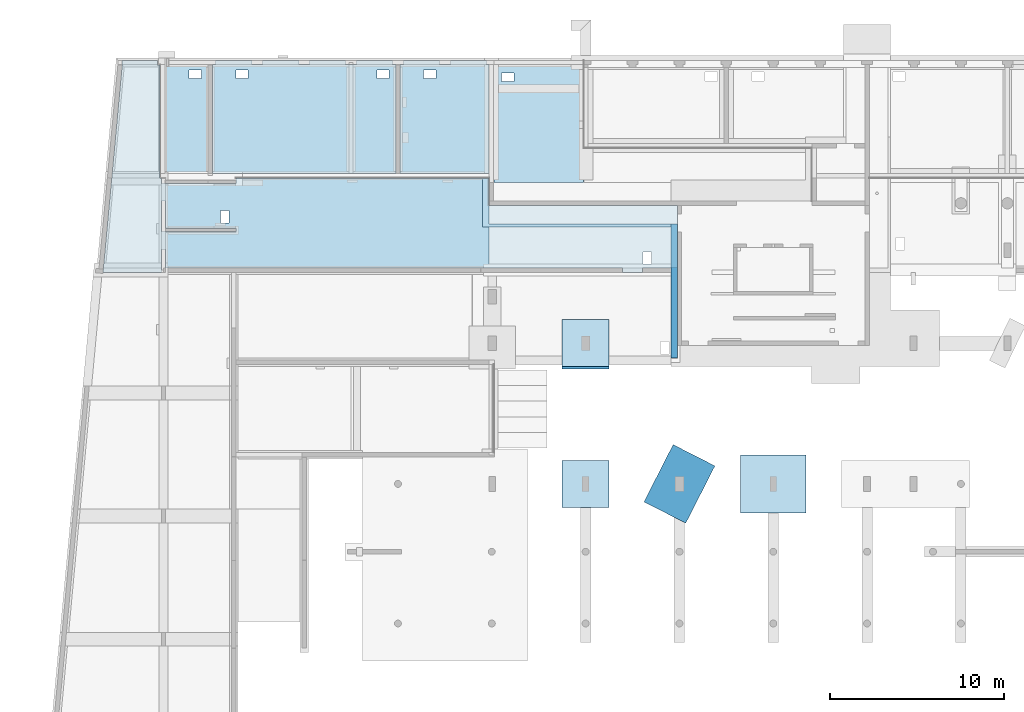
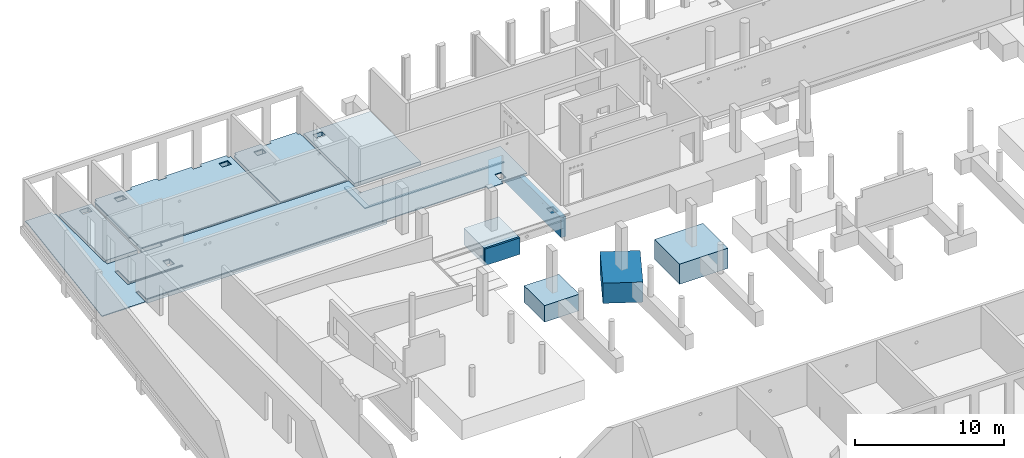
# One storey, part 24 of 60: 16 slabs, 47 openings.
"""IFC2X3 building model written with IfcOpenShell, lengths in millimetres."""

from ifc_helpers import new_model, entity, si_unit, converted_unit, derived_unit, direction, frame, frame_2d, origin, origin_2d_with_axis, place, context, subcontext, project, spatial, polyline, rectangle, circle, outline, extrude, boolean, material, layer, layer_set, layer_usage, element, save


model = new_model("IFC2X3")

# Units and contexts
model_context = context("Model", 3, precision=0.01, world=origin(), true_north=direction((6.12303176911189e-17, 1.0)))
body_context = subcontext(model_context, "Body", "Model", "MODEL_VIEW")
ifc_project = project(units=[si_unit("LENGTHUNIT", "METRE", prefix="MILLI"), si_unit("AREAUNIT", "SQUARE_METRE"), si_unit("VOLUMEUNIT", "CUBIC_METRE"), converted_unit("PLANEANGLEUNIT", "DEGREE", entity("IfcRatioMeasure", 0.0174532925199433), si_unit("PLANEANGLEUNIT", "RADIAN"), dimensions=[0, 0, 0, 0, 0, 0, 0]), si_unit("MASSUNIT", "GRAM", prefix="KILO"), derived_unit("MASSDENSITYUNIT", [(si_unit("MASSUNIT", "GRAM", prefix="KILO"), 1), (si_unit("LENGTHUNIT", "METRE"), -3)]), si_unit("TIMEUNIT", "SECOND"), si_unit("FREQUENCYUNIT", "HERTZ"), si_unit("THERMODYNAMICTEMPERATUREUNIT", "DEGREE_CELSIUS"), derived_unit("THERMALTRANSMITTANCEUNIT", [(si_unit("MASSUNIT", "GRAM", prefix="KILO"), 1), (si_unit("THERMODYNAMICTEMPERATUREUNIT", "KELVIN"), -1), (si_unit("TIMEUNIT", "SECOND"), -3)]), derived_unit("VOLUMETRICFLOWRATEUNIT", [(si_unit("LENGTHUNIT", "METRE"), 3), (si_unit("TIMEUNIT", "SECOND"), -1)]), si_unit("ELECTRICCURRENTUNIT", "AMPERE"), si_unit("ELECTRICVOLTAGEUNIT", "VOLT"), si_unit("POWERUNIT", "WATT"), si_unit("FORCEUNIT", "NEWTON", prefix="KILO"), si_unit("ILLUMINANCEUNIT", "LUX"), si_unit("LUMINOUSFLUXUNIT", "LUMEN"), si_unit("LUMINOUSINTENSITYUNIT", "CANDELA"), derived_unit("USERDEFINED", [(si_unit("MASSUNIT", "GRAM", prefix="KILO"), -1), (si_unit("LENGTHUNIT", "METRE"), -2), (si_unit("TIMEUNIT", "SECOND"), 3), (si_unit("LUMINOUSFLUXUNIT", "LUMEN"), 1)]), derived_unit("LINEARVELOCITYUNIT", [(si_unit("LENGTHUNIT", "METRE"), 1), (si_unit("TIMEUNIT", "SECOND"), -1)]), si_unit("PRESSUREUNIT", "PASCAL"), derived_unit("USERDEFINED", [(si_unit("LENGTHUNIT", "METRE"), -2), (si_unit("MASSUNIT", "GRAM", prefix="KILO"), 1), (si_unit("TIMEUNIT", "SECOND"), -2)])], contexts=[model_context])

# Site, building, storey
site_placement = place(None, origin())
site = spatial("IfcSite", under=ifc_project, at=site_placement, Name="Default", CompositionType="ELEMENT")
building_placement = place(site_placement, origin())
building = spatial("IfcBuilding", under=site, at=building_placement, Name="niet gebruiken", CompositionType="ELEMENT")
storey_placement = place(building_placement, origin())
storey = spatial("IfcBuildingStorey", under=building, at=storey_placement, Name="00 begane grond", CompositionType="ELEMENT", Elevation=0.0)

# Slabs
ifc_material_1 = material(Name="NLRS_f2_beton ihwg")
slab_1_placement = place(storey_placement, origin())
element("IfcSlab", 1, at=slab_1_placement, inside=storey, material=ifc_material_1, Name="NLRS_16.13_SFO_LB_fundatiepoer_gen:2700x2700x1350", ObjectType="NLRS_16.13_SFO_LB_fundatiepoer_gen:2700x2700x1350", PredefinedType="BASESLAB", context=body_context, shape_type="SweptSolid", body=[
    extrude(rectangle(XDim=2700.0, YDim=2700.0, at=frame_2d((2.1600499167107e-12, -2.1600499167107e-12), x_axis=(1.0, 0.0))), frame((32400.0, 28881.0, -1550.0), z_axis=(0.0, 0.0, 1.0), x_axis=(0.0, -1.0, 0.0)), (0.0, 0.0, 1.0), 1350.0),
])
slab_2_placement = place(storey_placement, origin())
element("IfcSlab", 2, at=slab_2_placement, inside=storey, material=ifc_material_1, Name="NLRS_16.13_SFO_LB_fundatiepoer_gen:3350x3750x1650", ObjectType="NLRS_16.13_SFO_LB_fundatiepoer_gen:3350x3750x1650", PredefinedType="BASESLAB", context=body_context, shape_type="SweptSolid", body=[
    extrude(rectangle(XDim=3350.0, YDim=3750.0, at=frame_2d((0.0, 4.32009983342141e-12), x_axis=(1.0, 0.0))), frame((43200.0, 28881.0, -1850.0), z_axis=(0.0, 0.0, 1.0), x_axis=(0.0, -1.0, 0.0)), (0.0, 0.0, 1.0), 1650.0),
])
slab_3_placement = place(storey_placement, origin())
element("IfcSlab", 3, at=slab_3_placement, inside=storey, material=ifc_material_1, Name="NLRS_16.13_SFO_LB_fundatiepoer_gen:2700x3700x1650", ObjectType="NLRS_16.13_SFO_LB_fundatiepoer_gen:2700x3700x1650", PredefinedType="BASESLAB", context=body_context, shape_type="SweptSolid", body=[
    extrude(rectangle(XDim=3700.0, YDim=2700.0, at=frame_2d((3.06954461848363e-12, -1.02318153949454e-12), x_axis=(1.0, 0.0))), frame((37800.0, 28881.0, -1850.0), z_axis=(0.0, 0.0, 1.0), x_axis=(0.453990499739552, 0.891006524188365, 0.0)), (0.0, 0.0, 1.0), 1650.0),
])
slab_4_placement = place(storey_placement, origin())
element("IfcSlab", 4, at=slab_4_placement, inside=storey, material=ifc_material_1, Name="NLRS_16.13_SFO_LB_fundatiepoer_gen:2700x2700x1350", ObjectType="NLRS_16.13_SFO_LB_fundatiepoer_gen:2700x2700x1350", PredefinedType="BASESLAB", context=body_context, shape_type="SweptSolid", body=[
    extrude(rectangle(XDim=2700.0, YDim=2700.0, at=origin_2d_with_axis()), frame((32400.0, 36981.0, -1752.0)), (0.0, 0.0, 1.0), 1350.0),
])

# Slab, openings
ifc_layer_1 = layer(ifc_material_1, 70.0)
ifc_layer_set_1 = layer_set([ifc_layer_1], Name="Floor:NLRS_23.21_FL_druklaag d=70_gen")
ifc_layer_usage_1 = layer_usage(ifc_layer_set_1, "AXIS3", "POSITIVE", 0.0)
slab_5_placement = place(storey_placement, frame((8180.0, 45156.0, -160.0)))
slab_5 = element("IfcSlab", 5, at=slab_5_placement, inside=storey, material=ifc_layer_usage_1, Name="Floor:NLRS_23.21_FL_druklaag d=70_gen", ObjectType="Floor:NLRS_23.21_FL_druklaag d=70_gen", PredefinedType="FLOOR", context=body_context, shape_type="SweptSolid", body=[
    extrude(outline(polyline([(36737.5000000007, 4050.0), (36737.5000000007, 3800.0), (36577.4999999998, 3800.0), (36577.4999999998, -2460.0), (41702.4999999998, -2460.0), (41702.4999999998, 3800.0), (41517.5000000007, 3800.0), (41517.5000000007, 4050.0), (39437.5000000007, 4050.0), (39437.5000000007, 3800.0), (38817.5000000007, 3800.0), (38817.5000000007, 4050.0), (36737.5000000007, 4050.0)])), frame((55247.4999999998, 4050.0, 70.0), z_axis=(0.0, 0.0, -1.0), x_axis=(-1.0, 0.0, 0.0)), (0.0, 0.0, 1.0), 70.0),
])
placement_1 = place(slab_5_placement, origin())
element("IfcOpeningElement", 6, at=placement_1, cuts=slab_5, ObjectType="Opening", context=body_context, shape_type="SweptSolid", body=[
    extrude(rectangle(XDim=700.000000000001, YDim=499.999999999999, at=origin_2d_with_axis()), frame((1750.0, 7302.50000000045, -380.0), z_axis=(0.0, 0.0, 1.0), x_axis=(-1.0, 0.0, 0.0)), (0.0, 0.0, 1.0), 450.0),
])
placement_2 = place(slab_5_placement, origin())
element("IfcOpeningElement", 7, at=placement_2, cuts=slab_5, ObjectType="Opening", context=body_context, shape_type="SweptSolid", body=[
    extrude(rectangle(XDim=700.000000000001, YDim=499.999999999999, at=origin_2d_with_axis()), frame((4450.0, 7302.50000000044, -380.0), z_axis=(0.0, 0.0, 1.0), x_axis=(-1.0, 0.0, 0.0)), (0.0, 0.0, 1.0), 450.0),
])
placement_3 = place(slab_5_placement, origin())
element("IfcOpeningElement", 8, at=placement_3, cuts=slab_5, ObjectType="Opening", context=body_context, shape_type="SweptSolid", body=[
    extrude(rectangle(XDim=700.000000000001, YDim=499.999999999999, at=origin_2d_with_axis()), frame((12550.0, 7302.50000000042, -380.0), z_axis=(0.0, 0.0, 1.0), x_axis=(-1.0, 0.0, 0.0)), (0.0, 0.0, 1.0), 450.0),
])
placement_4 = place(slab_5_placement, origin())
element("IfcOpeningElement", 9, at=placement_4, cuts=slab_5, ObjectType="Opening", context=body_context, shape_type="SweptSolid", body=[
    extrude(rectangle(XDim=700.000000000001, YDim=499.999999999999, at=origin_2d_with_axis()), frame((15250.0, 7302.50000000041, -380.0), z_axis=(0.0, 0.0, 1.0), x_axis=(-1.0, 0.0, 0.0)), (0.0, 0.0, 1.0), 450.0),
])
placement_5 = place(slab_5_placement, origin())
element("IfcOpeningElement", 10, at=placement_5, cuts=slab_5, ObjectType="Opening", context=body_context, shape_type="SweptSolid", body=[
    extrude(rectangle(XDim=700.000000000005, YDim=499.999999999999, at=origin_2d_with_axis()), frame((42250.0, 7175.0, -380.0), z_axis=(0.0, 0.0, 1.0), x_axis=(-1.0, 0.0, 0.0)), (0.0, 0.0, 1.0), 450.0),
])
placement_6 = place(slab_5_placement, origin())
element("IfcOpeningElement", 11, at=placement_6, cuts=slab_5, ObjectType="Opening", context=body_context, shape_type="SweptSolid", body=[
    extrude(rectangle(XDim=700.000000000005, YDim=499.999999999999, at=origin_2d_with_axis()), frame((50350.0, 7102.50000000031, -380.0), z_axis=(0.0, 0.0, 1.0), x_axis=(-1.0, 0.0, 0.0)), (0.0, 0.0, 1.0), 450.0),
])
placement_7 = place(slab_5_placement, origin())
element("IfcOpeningElement", 12, at=placement_7, cuts=slab_5, ObjectType="Opening", context=body_context, shape_type="SweptSolid", body=[
    extrude(rectangle(XDim=699.999999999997, YDim=499.999999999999, at=origin_2d_with_axis()), frame((53050.0, 7102.50000000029, -380.0), z_axis=(0.0, 0.0, 1.0), x_axis=(-1.0, 0.0, 0.0)), (0.0, 0.0, 1.0), 450.0),
])
placement_8 = place(slab_5_placement, origin())
element("IfcOpeningElement", 13, at=placement_8, cuts=slab_5, ObjectType="Opening", context=body_context, shape_type="SweptSolid", body=[
    extrude(rectangle(XDim=699.999999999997, YDim=499.999999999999, at=origin_2d_with_axis()), frame((60190.0, 7302.50000000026, -380.0), z_axis=(0.0, 0.0, 1.0), x_axis=(-1.0, 0.0, 0.0)), (0.0, 0.0, 1.0), 450.0),
])
placement_9 = place(slab_5_placement, origin())
element("IfcOpeningElement", 14, at=placement_9, cuts=slab_5, ObjectType="Opening", context=body_context, shape_type="SweptSolid", body=[
    extrude(rectangle(XDim=700.000000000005, YDim=499.999999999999, at=origin_2d_with_axis()), frame((63850.0, 7302.50000000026, -380.0), z_axis=(0.0, 0.0, 1.0), x_axis=(-1.0, 0.0, 0.0)), (0.0, 0.0, 1.0), 450.0),
])
placement_10 = place(slab_5_placement, origin())
element("IfcOpeningElement", 15, at=placement_10, cuts=slab_5, ObjectType="Opening", context=body_context, shape_type="SweptSolid", body=[
    extrude(rectangle(XDim=699.999999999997, YDim=499.999999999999, at=origin_2d_with_axis()), frame((90850.0, 7155.0, -380.0), z_axis=(0.0, 0.0, 1.0), x_axis=(-1.0, 0.0, 0.0)), (0.0, 0.0, 1.0), 450.0),
])
placement_11 = place(slab_5_placement, origin())
element("IfcOpeningElement", 16, at=placement_11, cuts=slab_5, ObjectType="Opening", context=body_context, shape_type="SweptSolid", body=[
    extrude(rectangle(XDim=699.999999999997, YDim=499.999999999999, at=origin_2d_with_axis()), frame((97990.0, 7155.0, -380.0), z_axis=(0.0, 0.0, 1.0), x_axis=(-1.0, 0.0, 0.0)), (0.0, 0.0, 1.0), 450.0),
])
placement_12 = place(slab_5_placement, origin())
element("IfcOpeningElement", 17, at=placement_12, cuts=slab_5, ObjectType="Opening", context=body_context, shape_type="SweptSolid", body=[
    extrude(rectangle(XDim=699.999999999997, YDim=499.999999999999, at=origin_2d_with_axis()), frame((101650.0, 7302.50000000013, -380.0), z_axis=(0.0, 0.0, 1.0), x_axis=(-1.0, 0.0, 0.0)), (0.0, 0.0, 1.0), 450.0),
])
placement_13 = place(slab_5_placement, origin())
element("IfcOpeningElement", 18, at=placement_13, cuts=slab_5, ObjectType="Opening", context=body_context, shape_type="SweptSolid", body=[
    extrude(rectangle(XDim=699.999999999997, YDim=499.999999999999, at=origin_2d_with_axis()), frame((109750.0, 7302.50000000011, -380.0), z_axis=(0.0, 0.0, 1.0), x_axis=(-1.0, 0.0, 0.0)), (0.0, 0.0, 1.0), 450.0),
])
placement_14 = place(slab_5_placement, origin())
element("IfcOpeningElement", 19, at=placement_14, cuts=slab_5, ObjectType="Opening", context=body_context, shape_type="SweptSolid", body=[
    extrude(rectangle(XDim=699.999999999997, YDim=499.999999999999, at=origin_2d_with_axis()), frame((112450.0, 7302.5000000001, -380.0), z_axis=(0.0, 0.0, 1.0), x_axis=(-1.0, 0.0, 0.0)), (0.0, 0.0, 1.0), 450.0),
])
placement_15 = place(slab_5_placement, origin())
element("IfcOpeningElement", 20, at=placement_15, cuts=slab_5, ObjectType="Opening", context=body_context, shape_type="SweptSolid", body=[
    extrude(rectangle(XDim=700.000000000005, YDim=499.999999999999, at=origin_2d_with_axis()), frame((31450.0, 7175.0, -380.0), z_axis=(0.0, 0.0, 1.0), x_axis=(-1.0, 0.0, 0.0)), (0.0, 0.0, 1.0), 450.0),
])
placement_16 = place(slab_5_placement, origin())
element("IfcOpeningElement", 21, at=placement_16, cuts=slab_5, ObjectType="Opening", context=body_context, shape_type="SweptSolid", body=[
    extrude(rectangle(XDim=700.000000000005, YDim=499.999999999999, at=origin_2d_with_axis()), frame((34150.0, 7175.0, -380.0), z_axis=(0.0, 0.0, 1.0), x_axis=(-1.0, 0.0, 0.0)), (0.0, 0.0, 1.0), 450.0),
])
placement_17 = place(slab_5_placement, origin())
element("IfcOpeningElement", 22, at=placement_17, cuts=slab_5, ObjectType="Opening", context=body_context, shape_type="SweptSolid", body=[
    extrude(rectangle(XDim=699.999999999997, YDim=499.999999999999, at=origin_2d_with_axis()), frame((82750.0, 7175.0, -380.0), z_axis=(0.0, 0.0, 1.0), x_axis=(-1.0, 0.0, 0.0)), (0.0, 0.0, 1.0), 450.0),
])
placement_18 = place(slab_5_placement, origin())
element("IfcOpeningElement", 23, at=placement_18, cuts=slab_5, ObjectType="Opening", context=body_context, shape_type="SweptSolid", body=[
    extrude(rectangle(XDim=699.999999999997, YDim=499.999999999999, at=origin_2d_with_axis()), frame((80050.0, 7175.0, -380.0), z_axis=(0.0, 0.0, 1.0), x_axis=(-1.0, 0.0, 0.0)), (0.0, 0.0, 1.0), 450.0),
])
placement_19 = place(slab_5_placement, origin())
element("IfcOpeningElement", 24, at=placement_19, cuts=slab_5, ObjectType="Opening", context=body_context, shape_type="SweptSolid", body=[
    extrude(rectangle(XDim=700.000000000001, YDim=499.999999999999, at=origin_2d_with_axis()), frame((19739.8230847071, 7129.78918001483, -380.0), z_axis=(0.0, 0.0, 1.0), x_axis=(-1.0, 0.0, 0.0)), (0.0, 0.0, 1.0), 450.0),
])

slab_6_placement = place(storey_placement, frame((8180.0, 45156.0, -160.0)))
slab_6 = element("IfcSlab", 25, at=slab_6_placement, inside=storey, material=ifc_layer_usage_1, Name="Floor:NLRS_23.21_FL_druklaag d=70_gen:8", ObjectType="Floor:NLRS_23.21_FL_druklaag d=70_gen", PredefinedType="FLOOR", context=body_context, shape_type="SweptSolid", body=[
    extrude(outline(polyline([(52502.4999999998, -2460.0), (52502.4999999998, 3800.0), (52317.5000000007, 3800.0), (52317.5000000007, 4050.0), (50237.5000000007, 4050.0), (50237.5000000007, 3800.0), (49617.5000000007, 3800.0), (49617.5000000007, 4050.0), (47537.5000000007, 4050.0), (47537.5000000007, 3800.0), (46917.5000000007, 3800.0), (46917.5000000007, 4050.0), (44837.5000000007, 4050.0), (44837.5000000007, 3800.0), (44217.5000000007, 3800.0), (44217.5000000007, 4050.0), (42137.5000000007, 4050.0), (42137.5000000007, 3800.0), (41952.4999999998, 3800.0), (41952.4999999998, -2460.0), (52502.4999999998, -2460.0)])), frame((55247.4999999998, 4050.0, 70.0), z_axis=(0.0, 0.0, -1.0), x_axis=(-1.0, 0.0, 0.0)), (0.0, 0.0, 1.0), 70.0),
])
element("IfcOpeningElement", 26, at=placement_1, cuts=slab_6, ObjectType="Opening", context=body_context, shape_type="SweptSolid", body=[
    extrude(rectangle(XDim=700.000000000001, YDim=499.999999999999, at=origin_2d_with_axis()), frame((1750.0, 7302.50000000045, -380.0), z_axis=(0.0, 0.0, 1.0), x_axis=(-1.0, 0.0, 0.0)), (0.0, 0.0, 1.0), 450.0),
])
element("IfcOpeningElement", 27, at=placement_2, cuts=slab_6, ObjectType="Opening", context=body_context, shape_type="SweptSolid", body=[
    extrude(rectangle(XDim=700.000000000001, YDim=499.999999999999, at=origin_2d_with_axis()), frame((4450.0, 7302.50000000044, -380.0), z_axis=(0.0, 0.0, 1.0), x_axis=(-1.0, 0.0, 0.0)), (0.0, 0.0, 1.0), 450.0),
])
element("IfcOpeningElement", 28, at=placement_3, cuts=slab_6, ObjectType="Opening", context=body_context, shape_type="SweptSolid", body=[
    extrude(rectangle(XDim=700.000000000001, YDim=499.999999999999, at=origin_2d_with_axis()), frame((12550.0, 7302.50000000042, -380.0), z_axis=(0.0, 0.0, 1.0), x_axis=(-1.0, 0.0, 0.0)), (0.0, 0.0, 1.0), 450.0),
])
element("IfcOpeningElement", 29, at=placement_4, cuts=slab_6, ObjectType="Opening", context=body_context, shape_type="SweptSolid", body=[
    extrude(rectangle(XDim=700.000000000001, YDim=499.999999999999, at=origin_2d_with_axis()), frame((15250.0, 7302.50000000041, -380.0), z_axis=(0.0, 0.0, 1.0), x_axis=(-1.0, 0.0, 0.0)), (0.0, 0.0, 1.0), 450.0),
])
element("IfcOpeningElement", 30, at=placement_5, cuts=slab_6, ObjectType="Opening", context=body_context, shape_type="SweptSolid", body=[
    extrude(rectangle(XDim=700.000000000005, YDim=499.999999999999, at=origin_2d_with_axis()), frame((42250.0, 7175.0, -380.0), z_axis=(0.0, 0.0, 1.0), x_axis=(-1.0, 0.0, 0.0)), (0.0, 0.0, 1.0), 450.0),
])
element("IfcOpeningElement", 31, at=placement_6, cuts=slab_6, ObjectType="Opening", context=body_context, shape_type="SweptSolid", body=[
    extrude(rectangle(XDim=700.000000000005, YDim=499.999999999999, at=origin_2d_with_axis()), frame((50350.0, 7102.50000000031, -380.0), z_axis=(0.0, 0.0, 1.0), x_axis=(-1.0, 0.0, 0.0)), (0.0, 0.0, 1.0), 450.0),
])
element("IfcOpeningElement", 32, at=placement_7, cuts=slab_6, ObjectType="Opening", context=body_context, shape_type="SweptSolid", body=[
    extrude(rectangle(XDim=699.999999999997, YDim=499.999999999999, at=origin_2d_with_axis()), frame((53050.0, 7102.50000000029, -380.0), z_axis=(0.0, 0.0, 1.0), x_axis=(-1.0, 0.0, 0.0)), (0.0, 0.0, 1.0), 450.0),
])
element("IfcOpeningElement", 33, at=placement_8, cuts=slab_6, ObjectType="Opening", context=body_context, shape_type="SweptSolid", body=[
    extrude(rectangle(XDim=699.999999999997, YDim=499.999999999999, at=origin_2d_with_axis()), frame((60190.0, 7302.50000000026, -380.0), z_axis=(0.0, 0.0, 1.0), x_axis=(-1.0, 0.0, 0.0)), (0.0, 0.0, 1.0), 450.0),
])
element("IfcOpeningElement", 34, at=placement_9, cuts=slab_6, ObjectType="Opening", context=body_context, shape_type="SweptSolid", body=[
    extrude(rectangle(XDim=700.000000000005, YDim=499.999999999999, at=origin_2d_with_axis()), frame((63850.0, 7302.50000000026, -380.0), z_axis=(0.0, 0.0, 1.0), x_axis=(-1.0, 0.0, 0.0)), (0.0, 0.0, 1.0), 450.0),
])
element("IfcOpeningElement", 35, at=placement_10, cuts=slab_6, ObjectType="Opening", context=body_context, shape_type="SweptSolid", body=[
    extrude(rectangle(XDim=699.999999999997, YDim=499.999999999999, at=origin_2d_with_axis()), frame((90850.0, 7155.0, -380.0), z_axis=(0.0, 0.0, 1.0), x_axis=(-1.0, 0.0, 0.0)), (0.0, 0.0, 1.0), 450.0),
])
element("IfcOpeningElement", 36, at=placement_11, cuts=slab_6, ObjectType="Opening", context=body_context, shape_type="SweptSolid", body=[
    extrude(rectangle(XDim=699.999999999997, YDim=499.999999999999, at=origin_2d_with_axis()), frame((97990.0, 7155.0, -380.0), z_axis=(0.0, 0.0, 1.0), x_axis=(-1.0, 0.0, 0.0)), (0.0, 0.0, 1.0), 450.0),
])
element("IfcOpeningElement", 37, at=placement_12, cuts=slab_6, ObjectType="Opening", context=body_context, shape_type="SweptSolid", body=[
    extrude(rectangle(XDim=699.999999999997, YDim=499.999999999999, at=origin_2d_with_axis()), frame((101650.0, 7302.50000000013, -380.0), z_axis=(0.0, 0.0, 1.0), x_axis=(-1.0, 0.0, 0.0)), (0.0, 0.0, 1.0), 450.0),
])
element("IfcOpeningElement", 38, at=placement_13, cuts=slab_6, ObjectType="Opening", context=body_context, shape_type="SweptSolid", body=[
    extrude(rectangle(XDim=699.999999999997, YDim=499.999999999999, at=origin_2d_with_axis()), frame((109750.0, 7302.50000000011, -380.0), z_axis=(0.0, 0.0, 1.0), x_axis=(-1.0, 0.0, 0.0)), (0.0, 0.0, 1.0), 450.0),
])
element("IfcOpeningElement", 39, at=placement_14, cuts=slab_6, ObjectType="Opening", context=body_context, shape_type="SweptSolid", body=[
    extrude(rectangle(XDim=699.999999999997, YDim=499.999999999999, at=origin_2d_with_axis()), frame((112450.0, 7302.5000000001, -380.0), z_axis=(0.0, 0.0, 1.0), x_axis=(-1.0, 0.0, 0.0)), (0.0, 0.0, 1.0), 450.0),
])
element("IfcOpeningElement", 40, at=placement_15, cuts=slab_6, ObjectType="Opening", context=body_context, shape_type="SweptSolid", body=[
    extrude(rectangle(XDim=700.000000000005, YDim=499.999999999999, at=origin_2d_with_axis()), frame((31450.0, 7175.0, -380.0), z_axis=(0.0, 0.0, 1.0), x_axis=(-1.0, 0.0, 0.0)), (0.0, 0.0, 1.0), 450.0),
])
element("IfcOpeningElement", 41, at=placement_16, cuts=slab_6, ObjectType="Opening", context=body_context, shape_type="SweptSolid", body=[
    extrude(rectangle(XDim=700.000000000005, YDim=499.999999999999, at=origin_2d_with_axis()), frame((34150.0, 7175.0, -380.0), z_axis=(0.0, 0.0, 1.0), x_axis=(-1.0, 0.0, 0.0)), (0.0, 0.0, 1.0), 450.0),
])
element("IfcOpeningElement", 42, at=placement_17, cuts=slab_6, ObjectType="Opening", context=body_context, shape_type="SweptSolid", body=[
    extrude(rectangle(XDim=699.999999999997, YDim=499.999999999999, at=origin_2d_with_axis()), frame((82750.0, 7175.0, -380.0), z_axis=(0.0, 0.0, 1.0), x_axis=(-1.0, 0.0, 0.0)), (0.0, 0.0, 1.0), 450.0),
])
element("IfcOpeningElement", 43, at=placement_18, cuts=slab_6, ObjectType="Opening", context=body_context, shape_type="SweptSolid", body=[
    extrude(rectangle(XDim=699.999999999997, YDim=499.999999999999, at=origin_2d_with_axis()), frame((80050.0, 7175.0, -380.0), z_axis=(0.0, 0.0, 1.0), x_axis=(-1.0, 0.0, 0.0)), (0.0, 0.0, 1.0), 450.0),
])
element("IfcOpeningElement", 44, at=placement_19, cuts=slab_6, ObjectType="Opening", context=body_context, shape_type="SweptSolid", body=[
    extrude(rectangle(XDim=700.000000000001, YDim=499.999999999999, at=origin_2d_with_axis()), frame((19739.8230847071, 7129.78918001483, -380.0), z_axis=(0.0, 0.0, 1.0), x_axis=(-1.0, 0.0, 0.0)), (0.0, 0.0, 1.0), 450.0),
])

# Slab, opening
ifc_material_2 = material(Name="NLRS_f2_beton prefab")
ifc_layer_2 = layer(ifc_material_2, 200.0)
ifc_material_3 = material(Name="NLRS_n7_isolatie EPS")
ifc_layer_3 = layer(ifc_material_3, 132.0)
ifc_layer_set_2 = layer_set([ifc_layer_2, ifc_layer_3], Name="Floor:NLRS_23.21_FL_geisoleerde kanaalplaat d=200 rc 3.5 iso132_gen")
ifc_layer_usage_2 = layer_usage(ifc_layer_set_2, "AXIS3", "POSITIVE", 0.0)
slab_7_placement = place(storey_placement, frame((10945.0, 46766.0, -492.0)))
slab_7 = element("IfcSlab", 45, at=slab_7_placement, inside=storey, material=ifc_layer_usage_2, Name="Floor:NLRS_23.21_FL_geisoleerde kanaalplaat d=200 rc 3.5 iso132_gen", ObjectType="Floor:NLRS_23.21_FL_geisoleerde kanaalplaat d=200 rc 3.5 iso132_gen", PredefinedType="FLOOR", context=body_context, shape_type="SweptSolid", body=[
    extrude(rectangle(XDim=6220.00000000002, YDim=7809.99999999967, at=frame_2d((0.0, 0.0), x_axis=(0.0, -1.0))), frame((3905.0, 3110.0, 332.0), z_axis=(0.0, 0.0, -1.0), x_axis=(-1.0, 0.0, 0.0)), (0.0, 0.0, 1.0), 332.0),
])
opening_39_placement = place(slab_7_placement, origin())
element("IfcOpeningElement", 46, at=opening_39_placement, cuts=slab_7, ObjectType="Opening", context=body_context, shape_type="SweptSolid", body=[
    extrude(rectangle(XDim=700.000000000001, YDim=499.999999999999, at=origin_2d_with_axis()), frame((1685.0, 5692.5000000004, -48.0), z_axis=(0.0, 0.0, 1.0), x_axis=(-1.0, 0.0, 0.0)), (0.0, 0.0, 1.0), 450.0),
])

ifc_layer_usage_3 = layer_usage(ifc_layer_set_2, "AXIS3", "POSITIVE", 0.0)
slab_8_placement = place(storey_placement, frame((19045.0, 46766.0, -492.0)))
slab_8 = element("IfcSlab", 47, at=slab_8_placement, inside=storey, material=ifc_layer_usage_3, Name="Floor:NLRS_23.21_FL_geisoleerde kanaalplaat d=200 rc 3.5 iso132_gen", ObjectType="Floor:NLRS_23.21_FL_geisoleerde kanaalplaat d=200 rc 3.5 iso132_gen", PredefinedType="FLOOR", context=body_context, shape_type="SweptSolid", body=[
    extrude(rectangle(XDim=6220.00000000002, YDim=2410.00000000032, at=frame_2d((0.0, 0.0), x_axis=(0.0, -1.0))), frame((1205.0, 3110.0, 332.0), z_axis=(0.0, 0.0, -1.0), x_axis=(-1.0, 0.0, 0.0)), (0.0, 0.0, 1.0), 332.0),
])
opening_40_placement = place(slab_8_placement, origin())
element("IfcOpeningElement", 48, at=opening_40_placement, cuts=slab_8, ObjectType="Opening", context=body_context, shape_type="SweptSolid", body=[
    extrude(rectangle(XDim=700.000000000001, YDim=499.999999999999, at=origin_2d_with_axis()), frame((1685.0, 5692.50000000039, -48.0), z_axis=(0.0, 0.0, 1.0), x_axis=(-1.0, 0.0, 0.0)), (0.0, 0.0, 1.0), 450.0),
])

ifc_layer_usage_4 = layer_usage(ifc_layer_set_2, "AXIS3", "POSITIVE", 0.0)
slab_9_placement = place(storey_placement, frame((21745.0, 46766.0, -492.0)))
slab_9 = element("IfcSlab", 49, at=slab_9_placement, inside=storey, material=ifc_layer_usage_4, Name="Floor:NLRS_23.21_FL_geisoleerde kanaalplaat d=200 rc 3.5 iso132_gen", ObjectType="Floor:NLRS_23.21_FL_geisoleerde kanaalplaat d=200 rc 3.5 iso132_gen", PredefinedType="FLOOR", context=body_context, shape_type="SweptSolid", body=[
    extrude(rectangle(XDim=6220.00000000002, YDim=5085.00000000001, at=frame_2d((0.0, 0.0), x_axis=(0.0, -1.0))), frame((2542.50000000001, 3110.0, 332.0), z_axis=(0.0, 0.0, -1.0), x_axis=(-1.0, 0.0, 0.0)), (0.0, 0.0, 1.0), 332.0),
])
opening_41_placement = place(slab_9_placement, origin())
element("IfcOpeningElement", 50, at=opening_41_placement, cuts=slab_9, ObjectType="Opening", context=body_context, shape_type="SweptSolid", body=[
    extrude(rectangle(XDim=700.000000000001, YDim=499.999999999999, at=origin_2d_with_axis()), frame((1685.0, 5692.5000000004, -48.0), z_axis=(0.0, 0.0, 1.0), x_axis=(-1.0, 0.0, 0.0)), (0.0, 0.0, 1.0), 450.0),
])

ifc_layer_usage_5 = layer_usage(ifc_layer_set_2, "AXIS3", "POSITIVE", 0.0)
slab_10_placement = place(storey_placement, frame((8200.0, 46766.0, -492.0)))
slab_10 = element("IfcSlab", 51, at=slab_10_placement, inside=storey, material=ifc_layer_usage_5, Name="Floor:NLRS_23.21_FL_geisoleerde kanaalplaat d=200 rc 3.5 iso132_gen", ObjectType="Floor:NLRS_23.21_FL_geisoleerde kanaalplaat d=200 rc 3.5 iso132_gen", PredefinedType="FLOOR", context=body_context, shape_type="SweptSolid", body=[
    extrude(rectangle(XDim=6220.00000000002, YDim=2454.99999999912, at=frame_2d((0.0, 0.0), x_axis=(0.0, -1.0))), frame((1227.49999999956, 3110.0, 332.0), z_axis=(0.0, 0.0, -1.0), x_axis=(-1.0, 0.0, 0.0)), (0.0, 0.0, 1.0), 332.0),
])
opening_42_placement = place(slab_10_placement, origin())
element("IfcOpeningElement", 52, at=opening_42_placement, cuts=slab_10, ObjectType="Opening", context=body_context, shape_type="SweptSolid", body=[
    extrude(rectangle(XDim=700.000000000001, YDim=499.999999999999, at=origin_2d_with_axis()), frame((1730.0, 5692.50000000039, -48.0), z_axis=(0.0, 0.0, 1.0), x_axis=(-1.0, 0.0, 0.0)), (0.0, 0.0, 1.0), 450.0),
])

ifc_layer_usage_6 = layer_usage(ifc_layer_set_2, "AXIS3", "POSITIVE", 0.0)
slab_11_placement = place(storey_placement, frame((8245.0, 41331.0, -402.0)))
slab_11 = element("IfcSlab", 53, at=slab_11_placement, inside=storey, material=ifc_layer_usage_6, Name="Floor:NLRS_23.21_FL_geisoleerde kanaalplaat d=200 rc 3.5 iso132_gen", ObjectType="Floor:NLRS_23.21_FL_geisoleerde kanaalplaat d=200 rc 3.5 iso132_gen", PredefinedType="FLOOR", context=body_context, shape_type="SweptSolid", body=[
    extrude(outline(polyline([(-9292.50000000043, 2572.49999999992), (-9292.50000000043, -2572.49999999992), (9292.50000000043, -2572.49999999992), (9292.50000000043, -562.500000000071), (5227.49963334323, -562.50000000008), (5227.49963334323, -272.500000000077), (9292.50000000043, -272.500000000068), (9292.50000000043, 2242.49999999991), (5227.49963334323, 2242.49999999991), (5227.49963334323, 2572.49999999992), (-9292.50000000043, 2572.49999999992)])), frame((9292.50000000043, 2572.49999999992, 332.0), z_axis=(0.0, 0.0, -1.0), x_axis=(-1.0, 0.0, 0.0)), (0.0, 0.0, 1.0), 332.0),
])
opening_43_placement = place(slab_11_placement, origin())
element("IfcOpeningElement", 54, at=opening_43_placement, cuts=slab_11, ObjectType="Opening", context=body_context, shape_type="SweptSolid", body=[
    extrude(rectangle(XDim=700.000000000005, YDim=500.000000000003, at=origin_2d_with_axis()), frame((3384.99802672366, 2929.97814941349, -48.0), z_axis=(0.0, 0.0, 1.0), x_axis=(0.0, -1.0, 0.0)), (0.0, 0.0, 1.0), 450.0),
])

ifc_layer_usage_7 = layer_usage(ifc_layer_set_2, "AXIS3", "POSITIVE", 0.0)
slab_12_placement = place(storey_placement, frame((27120.0, 46231.0, -492.0)))
slab_12 = element("IfcSlab", 55, at=slab_12_placement, inside=storey, material=ifc_layer_usage_7, Name="Floor:NLRS_23.21_FL_geisoleerde kanaalplaat d=200 rc 3.5 iso132_gen", ObjectType="Floor:NLRS_23.21_FL_geisoleerde kanaalplaat d=200 rc 3.5 iso132_gen", PredefinedType="FLOOR", context=body_context, shape_type="SweptSolid", body=[
    extrude(rectangle(XDim=6754.99999999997, YDim=5160.00000000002, at=frame_2d((0.0, 0.0), x_axis=(0.0, -1.0))), frame((2580.0, 3377.49999999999, 332.0), z_axis=(0.0, 0.0, -1.0), x_axis=(-1.0, 0.0, 0.0)), (0.0, 0.0, 1.0), 332.0),
])
opening_44_placement = place(slab_12_placement, origin())
element("IfcOpeningElement", 56, at=opening_44_placement, cuts=slab_12, ObjectType="Opening", context=body_context, shape_type="SweptSolid", body=[
    extrude(rectangle(XDim=700.000000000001, YDim=499.999999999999, at=origin_2d_with_axis()), frame((799.823084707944, 6054.7891800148, -48.0), z_axis=(0.0, 0.0, 1.0), x_axis=(-1.0, 0.0, 0.0)), (0.0, 0.0, 1.0), 450.0),
])

# Slab, openings
ifc_layer_4 = layer(ifc_material_1, 70.0)
ifc_layer_set_3 = layer_set([ifc_layer_4], Name="Floor:NLRS_23.21_FL_druklaag d=70 - gevlinderd_gen")
ifc_layer_usage_8 = layer_usage(ifc_layer_set_3, "AXIS3", "POSITIVE", 0.0)
slab_13_placement = place(storey_placement, frame((4621.46449529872, 41061.0, -70.0)))
slab_13 = element("IfcSlab", 57, at=slab_13_placement, inside=storey, material=ifc_layer_usage_8, Name="Floor:NLRS_23.21_FL_druklaag d=70 - gevlinderd_gen", ObjectType="Floor:NLRS_23.21_FL_druklaag d=70 - gevlinderd_gen", PredefinedType="FLOOR", context=body_context, shape_type="SweptSolid", body=[
    extrude(outline(polyline([(15438.2322476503, 6097.50000000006), (13378.2322476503, 6097.50000000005), (13378.2322476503, 5827.50000000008), (13238.2322476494, 5827.50000000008), (13238.2322476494, 1375.50000000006), (13238.2322476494, -682.499999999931), (13173.2322476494, -682.499999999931), (13173.2322476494, -982.49999999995), (8873.23234273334, -982.499999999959), (8873.23234273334, -682.499999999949), (-5681.76775235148, -682.499999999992), (-5681.76775235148, -2252.49999999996), (-16526.7677523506, -2252.5), (-16526.7677523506, -5847.5), (-14526.7677523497, -5847.5), (-14526.7677523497, -6097.49999999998), (-13371.7677523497, -6097.49999999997), (-13371.7677523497, -5847.5), (12923.2322476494, -5847.49999999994), (12923.2322476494, -4787.49999999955), (13173.2322476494, -4787.49999999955), (13173.2322476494, -6097.49999999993), (16526.7677523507, -6097.49999999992), (15420.5949230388, 5835.96258047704), (15438.2322476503, 5837.59747304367), (15438.2322476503, 6097.50000000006)])), frame((16526.7677523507, 6097.49999999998, 70.0), z_axis=(0.0, 0.0, -1.0), x_axis=(-1.0, 0.0, 0.0)), (0.0, 0.0, 1.0), 70.0),
])
opening_45_placement = place(slab_13_placement, origin())
element("IfcOpeningElement", 58, at=opening_45_placement, cuts=slab_13, ObjectType="Opening", context=body_context, shape_type="SweptSolid", body=[
    extrude(rectangle(XDim=700.000000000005, YDim=500.000000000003, at=origin_2d_with_axis()), frame((31323.526436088, 825.0, -380.0), z_axis=(0.0, 0.0, 1.0), x_axis=(0.0, -1.0, 0.0)), (0.0, 0.0, 1.0), 450.0),
])
opening_46_placement = place(slab_13_placement, origin())
element("IfcOpeningElement", 59, at=opening_46_placement, cuts=slab_13, ObjectType="Opening", context=body_context, shape_type="SweptSolid", body=[
    extrude(rectangle(XDim=700.000000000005, YDim=500.000000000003, at=origin_2d_with_axis()), frame((7008.53353142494, 3199.97814941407, -380.0), z_axis=(0.0, 0.0, 1.0), x_axis=(0.0, -1.0, 0.0)), (0.0, 0.0, 1.0), 450.0),
])
opening_47_placement = place(slab_13_placement, frame((4870.2021396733, 2980.0, 70.0)))
element("IfcOpeningElement", 60, at=opening_47_placement, cuts=slab_13, Name="Floor:NLRS_23.21_FL_druklaag d=70 - gevlinderd_gen:2", ObjectType="Opening", context=body_context, shape_type="SweptSolid", body=[
    extrude(outline(polyline([(-1516.66663497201, -1110.0), (-1266.66663497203, -1110.0), (-1266.66663497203, 465.0), (2783.33326994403, 465.0), (2783.33326994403, 645.0), (-1516.66663497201, 645.0), (-1516.66663497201, -1110.0)])), frame((0.0, 0.0, 0.0), z_axis=(0.0, 0.0, -1.0), x_axis=(1.0, 0.0, 0.0)), (0.0, 0.0, 1.0), 70.0),
])

# Slabs
ifc_layer_5 = layer(ifc_material_1, 1648.0)
ifc_layer_set_4 = layer_set([ifc_layer_5], Name="Floor:NLRS_13.22_FL_beton ihwg d=1648")
ifc_layer_usage_9 = layer_usage(ifc_layer_set_4, "AXIS3", "POSITIVE", 0.0)
slab_14_placement = place(storey_placement, origin())
element("IfcSlab", 61, at=slab_14_placement, inside=storey, material=ifc_layer_usage_9, Name="Floor:NLRS_13.22_FL_beton ihwg d=1648", ObjectType="Floor:NLRS_13.22_FL_beton ihwg d=1648", PredefinedType="BASESLAB", context=body_context, shape_type="CSG", body=[
    boolean("DIFFERENCE", extrude(rectangle(XDim=374.999999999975, YDim=7704.99999999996, at=origin_2d_with_axis()), frame((37487.4999999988, 39978.5, -402.0), z_axis=(0.0, 0.0, -1.0), x_axis=(1.0, 0.0, 0.0)), (0.0, 0.0, 1.0), 1648.0), extrude(circle(Radius=37.5000000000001, at=origin_2d_with_axis()), frame((37300.0, 38554.3983601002, -700.0), z_axis=(1.0, 0.0, 0.0), x_axis=(0.0, 1.0, 0.0)), (0.0, 0.0, 1.0), 374.999999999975)),
])
ifc_layer_6 = layer(ifc_material_1, 90.0)
ifc_layer_set_5 = layer_set([ifc_layer_6], Name="Floor:NLRS_23.21_FL_beton ihwg d=90_gen")
ifc_layer_usage_10 = layer_usage(ifc_layer_set_5, "AXIS3", "POSITIVE", 0.0)
slab_15_placement = place(storey_placement, origin())
element("IfcSlab", 62, at=slab_15_placement, inside=storey, material=ifc_layer_usage_10, Name="Floor:NLRS_23.21_FL_beton ihwg d=90_gen", ObjectType="Floor:NLRS_23.21_FL_beton ihwg d=90_gen", PredefinedType="FLOOR", context=body_context, shape_type="SweptSolid", body=[
    extrude(outline(polyline([(-988.333333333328, -3733.33333333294), (1826.66666666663, -3733.33333333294), (1826.66666666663, -3358.33333333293), (-838.333333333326, -3358.33333333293), (-838.333333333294, 7091.66666666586), (-988.333333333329, 7091.66666666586), (-988.333333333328, -3733.33333333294)])), frame((30208.3333333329, 44669.3333333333, -402.0), z_axis=(0.0, 0.0, -1.0), x_axis=(0.0, 1.0, 0.0)), (0.0, 0.0, 1.0), 90.0),
])
slab_16_placement = place(storey_placement, origin())
element("IfcSlab", 63, at=slab_16_placement, inside=storey, material=ifc_material_1, Name="NLRS_16.13_SFO_LB_fundatiepoer_gen:150x2700x1350", ObjectType="NLRS_16.13_SFO_LB_fundatiepoer_gen:150x2700x1350", PredefinedType="BASESLAB", context=body_context, shape_type="SweptSolid", body=[
    extrude(rectangle(XDim=2700.0, YDim=150.000000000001, at=frame_2d((4.32009983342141e-12, 0.0), x_axis=(1.0, 0.0))), frame((32400.0, 35556.0, -1752.0), z_axis=(0.0, 0.0, 1.0), x_axis=(-1.0, 0.0, 0.0)), (0.0, 0.0, 1.0), 1350.0),
])

save(model, "model.ifc")
